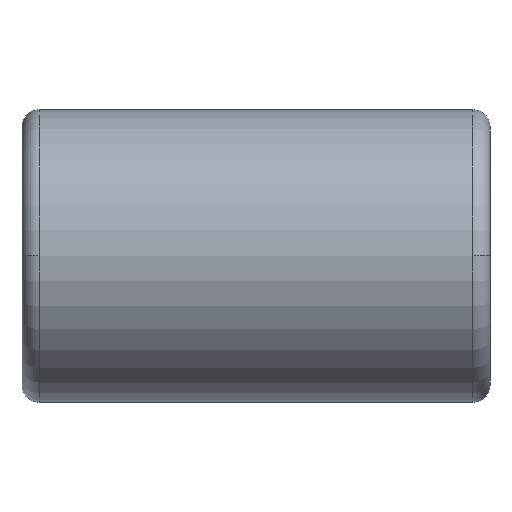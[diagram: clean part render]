
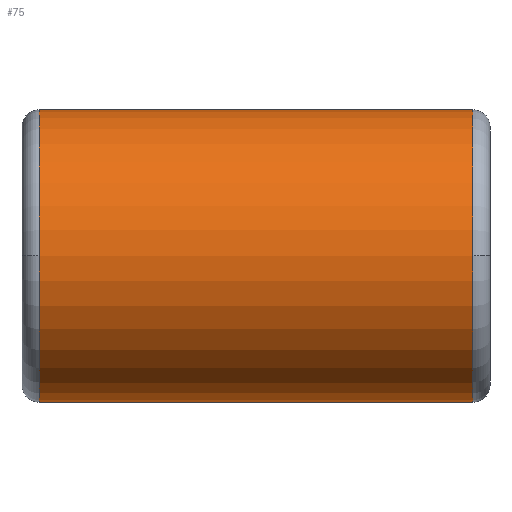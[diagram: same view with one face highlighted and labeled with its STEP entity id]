
A CAD part, top view. The second image highlights one B-rep face of the part: STEP entity #75.
In plain terms, the highlighted cylindrical face has radius 7.5 mm (diameter 15 mm), a partial arc.
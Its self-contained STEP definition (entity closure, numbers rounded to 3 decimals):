
#15 = CIRCLE ( 'NONE', #297, 7.5 ) ;
#20 = CARTESIAN_POINT ( 'NONE',  ( 23.125, 0., 7.5 ) ) ;
#21 = CIRCLE ( 'NONE', #265, 7.5 ) ;
#26 = CARTESIAN_POINT ( 'NONE',  ( 12., -7.5, 0. ) ) ;
#27 = AXIS2_PLACEMENT_3D ( 'NONE', #176, #203, #169 ) ;
#39 = CARTESIAN_POINT ( 'NONE',  ( 12., 7.5, 0. ) ) ;
#45 = VERTEX_POINT ( 'NONE', #267 ) ;
#55 = DIRECTION ( 'NONE',  ( 0., 1., 0. ) ) ;
#61 = CARTESIAN_POINT ( 'NONE',  ( 23.125, 0., 0. ) ) ;
#64 = DIRECTION ( 'NONE',  ( 0., 1., 0. ) ) ;
#66 = CARTESIAN_POINT ( 'NONE',  ( 0.875, 0., 0. ) ) ;
#67 = ORIENTED_EDGE ( 'NONE', *, *, #136, .F. ) ;
#69 = ORIENTED_EDGE ( 'NONE', *, *, #268, .T. ) ;
#73 = AXIS2_PLACEMENT_3D ( 'NONE', #66, #122, #64 ) ;
#74 = DIRECTION ( 'NONE',  ( 1., 0., 0. ) ) ;
#75 = ADVANCED_FACE ( 'NONE', ( #293 ), #212, .T. ) ;
#86 = CARTESIAN_POINT ( 'NONE',  ( 0.875, -7.5, 0. ) ) ;
#95 = DIRECTION ( 'NONE',  ( 0., 1., 0. ) ) ;
#104 = DIRECTION ( 'NONE',  ( -1., 0., 0. ) ) ;
#122 = DIRECTION ( 'NONE',  ( 1., 0., 0. ) ) ;
#127 = EDGE_CURVE ( 'NONE', #254, #285, #21, .T. ) ;
#129 = DIRECTION ( 'NONE',  ( 0., 1., 0. ) ) ;
#136 = EDGE_CURVE ( 'NONE', #341, #206, #179, .T. ) ;
#142 = ORIENTED_EDGE ( 'NONE', *, *, #294, .T. ) ;
#144 = CARTESIAN_POINT ( 'NONE',  ( 23.125, -7.5, 0. ) ) ;
#152 = ORIENTED_EDGE ( 'NONE', *, *, #127, .F. ) ;
#166 = DIRECTION ( 'NONE',  ( 1., 0., 0. ) ) ;
#169 = DIRECTION ( 'NONE',  ( 0., 1., 0. ) ) ;
#176 = CARTESIAN_POINT ( 'NONE',  ( 0.875, 0., 0. ) ) ;
#179 = LINE ( 'NONE', #26, #307 ) ;
#190 = AXIS2_PLACEMENT_3D ( 'NONE', #291, #104, #129 ) ;
#191 = CARTESIAN_POINT ( 'NONE',  ( 23.125, 7.5, 0. ) ) ;
#203 = DIRECTION ( 'NONE',  ( 1., 0., 0. ) ) ;
#206 = VERTEX_POINT ( 'NONE', #86 ) ;
#207 = EDGE_CURVE ( 'NONE', #254, #45, #272, .T. ) ;
#210 = VECTOR ( 'NONE', #305, 1000. ) ;
#212 = CYLINDRICAL_SURFACE ( 'NONE', #190, 7.5 ) ;
#221 = ORIENTED_EDGE ( 'NONE', *, *, #207, .T. ) ;
#254 = VERTEX_POINT ( 'NONE', #191 ) ;
#261 = EDGE_LOOP ( 'NONE', ( #67, #279, #152, #221, #69, #142 ) ) ;
#263 = EDGE_CURVE ( 'NONE', #285, #341, #15, .T. ) ;
#265 = AXIS2_PLACEMENT_3D ( 'NONE', #266, #74, #55 ) ;
#266 = CARTESIAN_POINT ( 'NONE',  ( 23.125, 0., 0. ) ) ;
#267 = CARTESIAN_POINT ( 'NONE',  ( 0.875, 7.5, 0. ) ) ;
#268 = EDGE_CURVE ( 'NONE', #45, #315, #338, .T. ) ;
#269 = DIRECTION ( 'NONE',  ( -1., 0., 0. ) ) ;
#272 = LINE ( 'NONE', #39, #210 ) ;
#279 = ORIENTED_EDGE ( 'NONE', *, *, #263, .F. ) ;
#282 = CARTESIAN_POINT ( 'NONE',  ( 0.875, 0., 7.5 ) ) ;
#285 = VERTEX_POINT ( 'NONE', #20 ) ;
#291 = CARTESIAN_POINT ( 'NONE',  ( 12., 0., 0. ) ) ;
#293 = FACE_OUTER_BOUND ( 'NONE', #261, .T. ) ;
#294 = EDGE_CURVE ( 'NONE', #315, #206, #322, .T. ) ;
#297 = AXIS2_PLACEMENT_3D ( 'NONE', #61, #166, #95 ) ;
#305 = DIRECTION ( 'NONE',  ( -1., 0., 0. ) ) ;
#307 = VECTOR ( 'NONE', #269, 1000. ) ;
#315 = VERTEX_POINT ( 'NONE', #282 ) ;
#322 = CIRCLE ( 'NONE', #27, 7.5 ) ;
#338 = CIRCLE ( 'NONE', #73, 7.5 ) ;
#341 = VERTEX_POINT ( 'NONE', #144 ) ;
